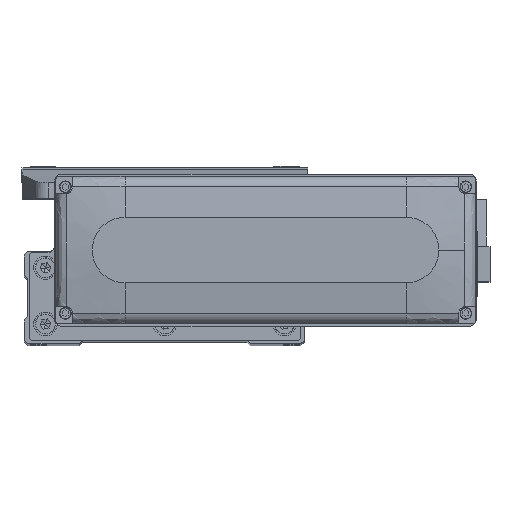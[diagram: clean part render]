
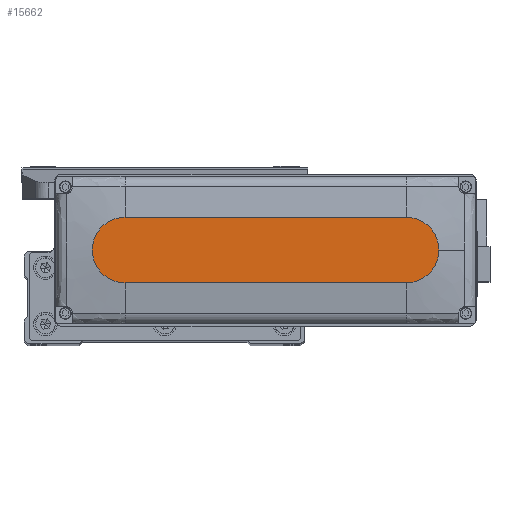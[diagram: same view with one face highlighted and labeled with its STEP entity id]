
A CAD part, top view. The second image highlights one B-rep face of the part: STEP entity #15662.
In plain terms, the highlighted planar face has unit normal (0, 0, 1).
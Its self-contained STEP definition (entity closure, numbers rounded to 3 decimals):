
#1627 = CARTESIAN_POINT ( 'NONE',  ( -60., 14., 28.5 ) ) ;
#2254 = DIRECTION ( 'NONE',  ( 0., 0., 1. ) ) ;
#2387 = AXIS2_PLACEMENT_3D ( 'NONE', #41518, #11695, #24960 ) ;
#2389 = CARTESIAN_POINT ( 'NONE',  ( -60., -14., 28.5 ) ) ;
#3570 = CARTESIAN_POINT ( 'NONE',  ( -60., 14., 28.5 ) ) ;
#3889 = DIRECTION ( 'NONE',  ( 1., 0., 0. ) ) ;
#4558 = AXIS2_PLACEMENT_3D ( 'NONE', #20401, #33676, #3889 ) ;
#4914 = EDGE_CURVE ( 'NONE', #11032, #5022, #32198, .T. ) ;
#5022 = VERTEX_POINT ( 'NONE', #23041 ) ;
#8207 = CARTESIAN_POINT ( 'NONE',  ( 60., 14., 28.5 ) ) ;
#11032 = VERTEX_POINT ( 'NONE', #14932 ) ;
#11695 = DIRECTION ( 'NONE',  ( 0., 0., 1. ) ) ;
#11997 = VERTEX_POINT ( 'NONE', #8207 ) ;
#12227 = CARTESIAN_POINT ( 'NONE',  ( 0., 0., 28.5 ) ) ;
#13192 = EDGE_CURVE ( 'NONE', #25135, #11032, #23298, .T. ) ;
#14008 = ORIENTED_EDGE ( 'NONE', *, *, #13192, .T. ) ;
#14884 = DIRECTION ( 'NONE',  ( -1., 0., 0. ) ) ;
#14932 = CARTESIAN_POINT ( 'NONE',  ( -60., -14., 28.5 ) ) ;
#15502 = DIRECTION ( 'NONE',  ( 1., 0., 0. ) ) ;
#15647 = DIRECTION ( 'NONE',  ( 1., 0., 0. ) ) ;
#15662 = ADVANCED_FACE ( 'NONE', ( #28749 ), #42049, .T. ) ;
#16381 = CIRCLE ( 'NONE', #21929, 14. ) ;
#17067 = ORIENTED_EDGE ( 'NONE', *, *, #4914, .T. ) ;
#17248 = VECTOR ( 'NONE', #15647, 1000. ) ;
#20057 = AXIS2_PLACEMENT_3D ( 'NONE', #12227, #25492, #38784 ) ;
#20401 = CARTESIAN_POINT ( 'NONE',  ( -60., 0., 28.5 ) ) ;
#21140 = CIRCLE ( 'NONE', #2387, 14. ) ;
#21929 = AXIS2_PLACEMENT_3D ( 'NONE', #32073, #2254, #15502 ) ;
#22595 = VERTEX_POINT ( 'NONE', #24227 ) ;
#23041 = CARTESIAN_POINT ( 'NONE',  ( 60., -14., 28.5 ) ) ;
#23298 = CIRCLE ( 'NONE', #4558, 14. ) ;
#24227 = CARTESIAN_POINT ( 'NONE',  ( 74., 0., 28.5 ) ) ;
#24845 = EDGE_CURVE ( 'NONE', #11997, #25135, #31433, .T. ) ;
#24960 = DIRECTION ( 'NONE',  ( 1., 0., 0. ) ) ;
#25135 = VERTEX_POINT ( 'NONE', #3570 ) ;
#25492 = DIRECTION ( 'NONE',  ( 0., 0., 1. ) ) ;
#26314 = EDGE_CURVE ( 'NONE', #5022, #22595, #21140, .T. ) ;
#28749 = FACE_OUTER_BOUND ( 'NONE', #30887, .T. ) ;
#30604 = VECTOR ( 'NONE', #14884, 1000. ) ;
#30887 = EDGE_LOOP ( 'NONE', ( #40314, #14008, #17067, #31413, #37003 ) ) ;
#31413 = ORIENTED_EDGE ( 'NONE', *, *, #26314, .T. ) ;
#31433 = LINE ( 'NONE', #1627, #30604 ) ;
#32073 = CARTESIAN_POINT ( 'NONE',  ( 60., 0., 28.5 ) ) ;
#32198 = LINE ( 'NONE', #2389, #17248 ) ;
#33676 = DIRECTION ( 'NONE',  ( 0., 0., 1. ) ) ;
#37003 = ORIENTED_EDGE ( 'NONE', *, *, #40440, .T. ) ;
#38784 = DIRECTION ( 'NONE',  ( 1., 0., 0. ) ) ;
#40314 = ORIENTED_EDGE ( 'NONE', *, *, #24845, .T. ) ;
#40440 = EDGE_CURVE ( 'NONE', #22595, #11997, #16381, .T. ) ;
#41518 = CARTESIAN_POINT ( 'NONE',  ( 60., 0., 28.5 ) ) ;
#42049 = PLANE ( 'NONE',  #20057 ) ;
